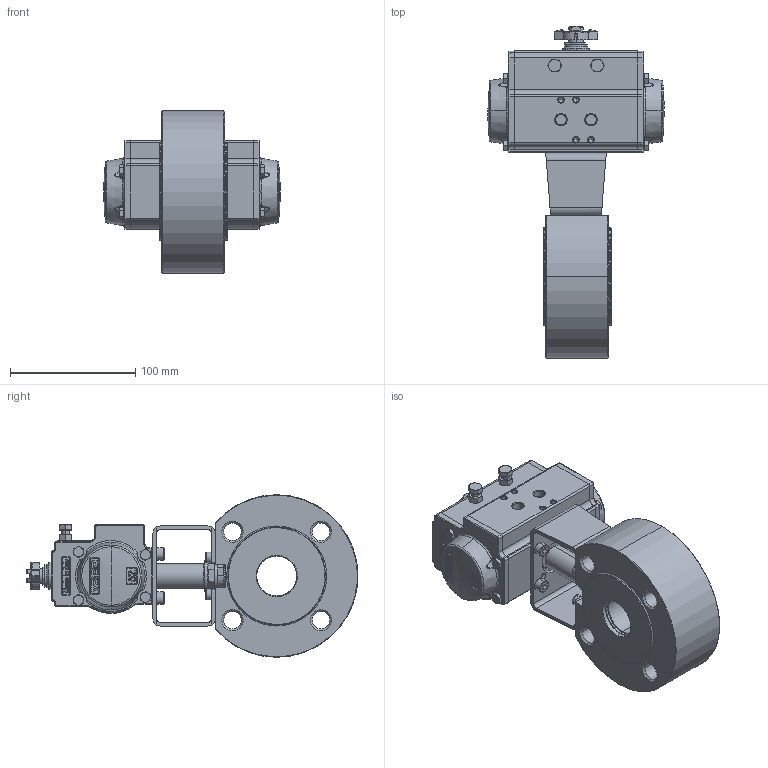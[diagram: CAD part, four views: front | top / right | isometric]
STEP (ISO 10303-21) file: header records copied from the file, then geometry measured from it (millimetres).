
FILE_DESCRIPTION (( 'STEP AP214' ), '1' );
FILE_NAME ('8P00350007.STEP', '2017-05-15T14:18:08', ( 'Negroni' ), ( 'Hewlett-Packard Company' ), 'SwSTEP 2.0', 'SolidWorks 2015', '' );
FILE_SCHEMA (( 'AUTOMOTIVE_DESIGN' ));
Length unit declared in the file: millimetre
Products named in the file (1): 8P00350007
Bounding box: 141.02 x 265.5 x 130 mm (x, y, z)
Volume: 1195659 mm3; surface area: 130607 mm2
Topology: 1 solids, 1 shells, 1931 faces, 5111 edges, 3218 vertices
Faces by surface type: plane 767, bspline 568, cylinder 314, cone 280, sphere 2
Entity records: 114985 total; most frequent: CARTESIAN_POINT 63612, ORIENTED_EDGE 10084, DIRECTION 5552, EDGE_CURVE 5042, VERTEX_POINT 3218, B_SPLINE_CURVE_WITH_KNOTS 2492, EDGE_LOOP 2074, FACE_OUTER_BOUND 1931
